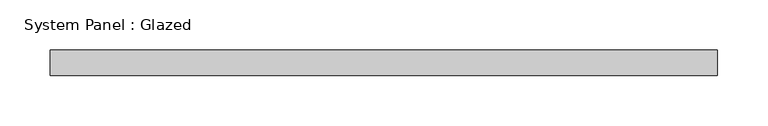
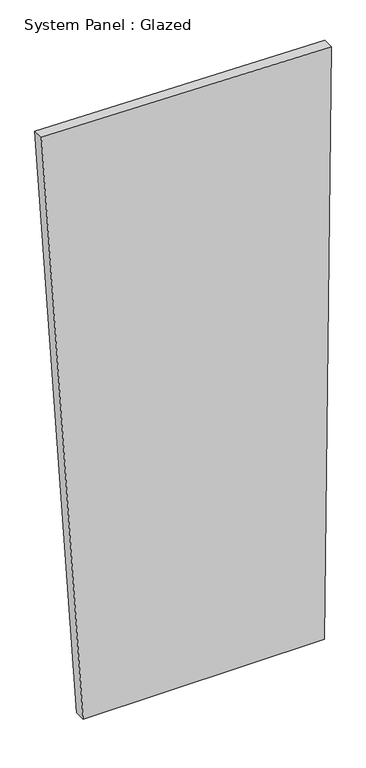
"""IFC4 building model written with IfcOpenShell, lengths in millimetres: plate geometry, System Panel : Glazed."""

from ifc_helpers import new_model, si_unit, frame, origin, place, context, project, spatial, polyline, outline, extrude, source, transform, mapped, element, save


def system_panel_glazed_93994c43(model_context):
    return source(origin(), model_context, "Body", "SweptSolid", [
        extrude(outline(polyline([(0.0, -236.0637857), (0.0, 316.6218884), (1426.5056003, 331.6429924), (1439.3953384, -331.6429924), (0.0, -236.0637857)])), frame((0.0, -44.45, 0.0), z_axis=(0.0, 1.0, 0.0), x_axis=(0.0, 0.0, 1.0)), (0.0, 0.0, 1.0), 25.4),
    ])


if __name__ == "__main__":
    model = new_model("IFC4")
    model_context = context("Model", 3, world=origin())
    ifc_project = project(units=[si_unit("LENGTHUNIT", "METRE", prefix="MILLI")], contexts=[model_context])
    site = spatial("IfcSite", under=ifc_project)
    building = spatial("IfcBuilding", under=site)
    placement = place(None, origin())
    system_panel_glazed_shape = system_panel_glazed_93994c43(model_context)
    element("IfcPlate", 1, ObjectType="System Panel : Glazed", at=placement, inside=building, context=model_context, shape_type="MappedRepresentation", body=[
        mapped(system_panel_glazed_shape, transform((0.0, 0.0, 0.0), x_axis=(1.0, 0.0, 0.0), y_axis=(0.0, 1.0, 0.0), z_axis=(0.0, 0.0, 1.0))),
    ])
    save(model, "model.ifc")
